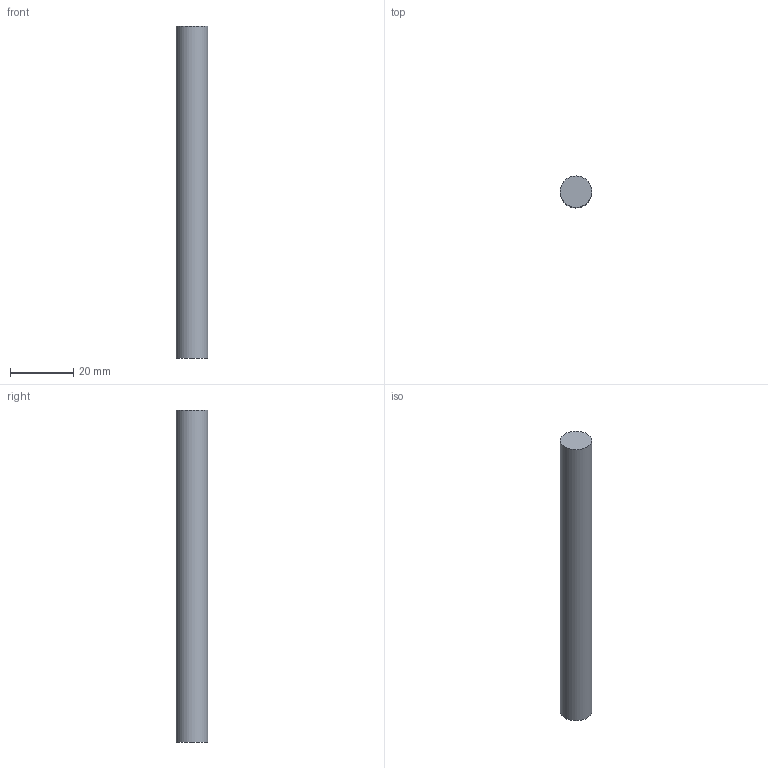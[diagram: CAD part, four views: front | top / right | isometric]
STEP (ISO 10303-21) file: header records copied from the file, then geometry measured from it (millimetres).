
FILE_DESCRIPTION(('Open CASCADE Model'),'2;1');
FILE_NAME('Open CASCADE Shape Model','2026-09-16T16:54:27',('Author'),( 'Open CASCADE'),'Open CASCADE STEP processor 7.8','Open CASCADE 7.8' ,'Unknown');
FILE_SCHEMA(('AUTOMOTIVE_DESIGN { 1 0 10303 214 1 1 1 1 }'));
Length unit declared in the file: millimetre
Products named in the file (1): Open CASCADE STEP translator 7.8 18
Bounding box: 10 x 10 x 105 mm (x, y, z)
Volume: 8246.7 mm3; surface area: 3455.8 mm2
Topology: 1 solids, 1 shells, 3 faces, 3 edges, 2 vertices
Faces by surface type: plane 2, cylinder 1
Full cylindrical faces by diameter (mm): 10 x1
Entity records: 108 total; most frequent: DIRECTION 19, CARTESIAN_POINT 15, AXIS2_PLACEMENT_3D 6, ORIENTED_EDGE 6, PCURVE 6, DEFINITIONAL_REPRESENTATION 6, LINE 5, VECTOR 5
